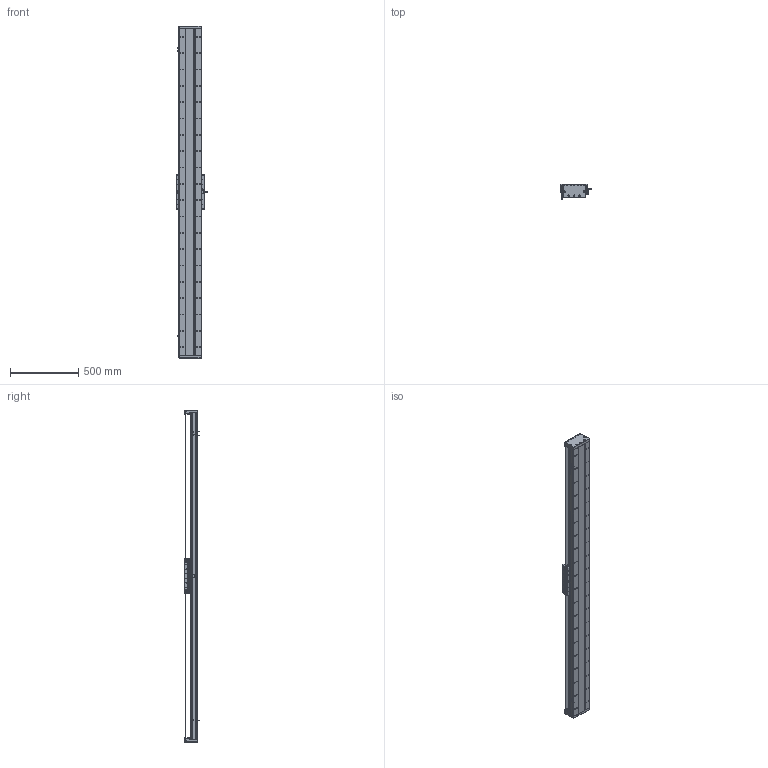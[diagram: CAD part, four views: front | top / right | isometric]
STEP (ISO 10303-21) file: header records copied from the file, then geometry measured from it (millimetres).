
FILE_DESCRIPTION (( 'STEP AP203' ), '1' );
FILE_NAME ('DA-C165-C3-T2100-C010-0.2 直线电机.STEP', '2023-06-13T08:51:17', ( '微软用户' ), ( '微软中国' ), 'SwSTEP 2.0', 'SolidWorks 2019', '' );
FILE_SCHEMA (( 'CONFIG_CONTROL_DESIGN' ));
Length unit declared in the file: millimetre
Products named in the file (18): 珨极趙賑雄怢啣C3-wf; 复件 DA165-GDLK-00 钢带拉块^复件 CU165钢带组件_DA-C165-C3-T-C010-0.2-N 直线电机; 复件 DA165-GYP-00 光电感应片^DA-C165-C3-T-C010-0.2-N 直线电机; 葩璃 DA95-GT-T-00^IU-CU165-L 菁釱絳寢_T; DA-C165-C3-T2100-C010-0.2 眻盄萇儂; 复件 DA165-GD-1860-002-00 钢带盖板^复件 CU165钢带组件_DA-C165-C3-T-C010-0.2-N 直线电机; 葩璃 PM-T45^DA-C165-C3-T-C010-0.2-N 眻盄萇儂; 复件 DA165-GD-DG-H-00 端盖^复件 CU165钢带组件_DA-C165-C3-T-C010-0.2-N 直线电机; 葩璃 CKM01-W075-TRL^DA-C165-C3-T-C010-0.2-N 眻盄萇儂; IU-CU165-L 菁釱絳寢; 复件 DA95-HXJ-00 缓冲橡胶^DA-C165-C3-T-C010-0.2-N 直线电机; 葩璃 CKM03-W075-C1C2-TP-3.0^DA-C165-C3-T-C010-0.2-N 眻盄萇儂; 复件 DA165-GDYK-00 钢带压块^复件 CU165钢带组件_DA-C165-C3-T-C010-0.2-N 直线电机; 复件 XD-U-02L 磁栅尺^DA-C165-C3-T-C010-0.2-N 直线电机_T; 复件 DMA-010-0.2 读数头^DA-C165-C3-T-C010-0.2-N 直线电机; 复件 六角薄螺母 M3^DA-C165-C3-T-C010-0.2-N 直线电机_GB_FASTENER_NUT_STNAB M3-C; 复件 CU165 底座^IU-CU165-L 底座导轨_L2400; 复件 CU165钢带组件^DA-C165-C3-T-C010-0.2-N 直线电机
Assembly tree (35 placements, depth 3):
  DA-C165-C3-T2100-C010-0.2 眻盄萇儂
    IU-CU165-L 菁釱絳寢
      复件 CU165 底座^IU-CU165-L 底座导轨_L2400
      葩璃 DA95-GT-T-00^IU-CU165-L 菁釱絳寢_T  x4
    复件 XD-U-02L 磁栅尺^DA-C165-C3-T-C010-0.2-N 直线电机_T
    葩璃 PM-T45^DA-C165-C3-T-C010-0.2-N 眻盄萇儂  x3
    葩璃 CKM01-W075-TRL^DA-C165-C3-T-C010-0.2-N 眻盄萇儂
    复件 CU165钢带组件^DA-C165-C3-T-C010-0.2-N 直线电机
      复件 DA165-GD-DG-H-00 端盖^复件 CU165钢带组件_DA-C165-C3-T-C010-0.2-N 直线电机  x2
      复件 DA165-GDYK-00 钢带压块^复件 CU165钢带组件_DA-C165-C3-T-C010-0.2-N 直线电机  x2
      复件 DA165-GD-1860-002-00 钢带盖板^复件 CU165钢带组件_DA-C165-C3-T-C010-0.2-N 直线电机
      复件 DA165-GDLK-00 钢带拉块^复件 CU165钢带组件_DA-C165-C3-T-C010-0.2-N 直线电机  x2
    复件 DA95-HXJ-00 缓冲橡胶^DA-C165-C3-T-C010-0.2-N 直线电机  x4
    复件 DA165-GYP-00 光电感应片^DA-C165-C3-T-C010-0.2-N 直线电机
    复件 DMA-010-0.2 读数头^DA-C165-C3-T-C010-0.2-N 直线电机
    葩璃 CKM03-W075-C1C2-TP-3.0^DA-C165-C3-T-C010-0.2-N 眻盄萇儂
    复件 六角薄螺母 M3^DA-C165-C3-T-C010-0.2-N 直线电机_GB_FASTENER_NUT_STNAB M3-C  x8
    珨极趙賑雄怢啣C3-wf
Bounding box: 233 x 111.45 x 2440 mm (x, y, z)
Volume: 14257629.5 mm3; surface area: 4197480.8 mm2
Topology: 72 solids, 122 shells, 4258 faces, 12077 edges, 7612 vertices
Faces by surface type: cylinder 2424, plane 1208, cone 576, torus 46, sphere 4
Entity records: 138319 total; most frequent: CARTESIAN_POINT 36829, ORIENTED_EDGE 20906, DIRECTION 20619, EDGE_CURVE 10453, AXIS2_PLACEMENT_3D 7914, VERTEX_POINT 6800, EDGE_LOOP 4899, LINE 4791
